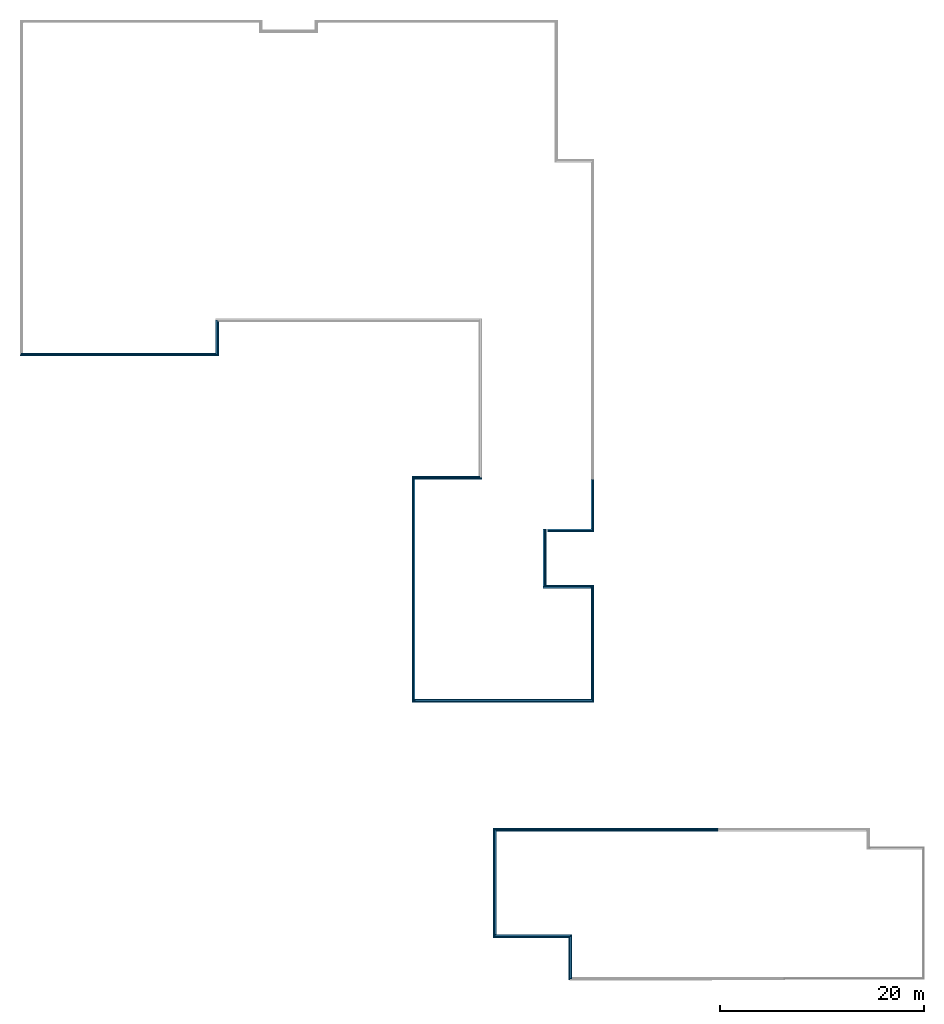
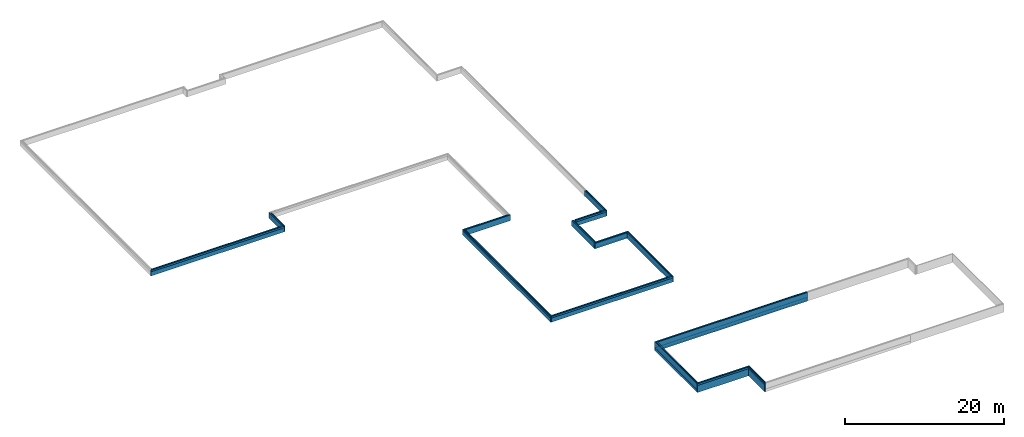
# One storey, part 1 of 3: 41 building element parts, 14 elements without a shape of their own.
"""IFC2X3 building model written with IfcOpenShell, lengths in millimetres."""

from ifc_helpers import new_model, entity, si_unit, converted_unit, derived_unit, money_unit, direction, frame, origin_with_axes, place, context, subcontext, project, spatial, faceted_brep, material, type_object, element, aggregate, save


model = new_model("IFC2X3")

# Units and contexts
model_context = context("Model", 3, precision=0.01, world=origin_with_axes(), true_north=direction((0.0, 1.0)))
plan_context = context("Plan", 3, precision=0.01, world=origin_with_axes(), true_north=direction((0.0, 1.0)))
body_context = subcontext(model_context, "Body", "Model", "MODEL_VIEW")
ifc_project = project(units=[si_unit("LENGTHUNIT", "METRE", prefix="MILLI"), si_unit("AREAUNIT", "SQUARE_METRE"), si_unit("VOLUMEUNIT", "CUBIC_METRE"), converted_unit("PLANEANGLEUNIT", "DEGREE", entity("IfcPlaneAngleMeasure", 0.0174532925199), si_unit("PLANEANGLEUNIT", "RADIAN"), dimensions=[0, 0, 0, 0, 0, 0, 0]), money_unit("EUR"), converted_unit("TIMEUNIT", "Year", entity("IfcTimeMeasure", 31556926.0), si_unit("TIMEUNIT", "SECOND"), dimensions=[0, 0, 1, 0, 0, 0, 0]), si_unit("MASSUNIT", "GRAM", prefix="KILO"), si_unit("THERMODYNAMICTEMPERATUREUNIT", "DEGREE_CELSIUS"), si_unit("LUMINOUSINTENSITYUNIT", "LUMEN"), si_unit("ENERGYUNIT", "JOULE", prefix="MEGA"), derived_unit("THERMALCONDUCTANCEUNIT", [(si_unit("POWERUNIT", "WATT"), 1), (si_unit("LENGTHUNIT", "METRE"), -1), (si_unit("THERMODYNAMICTEMPERATUREUNIT", "KELVIN"), -1)]), derived_unit("SPECIFICHEATCAPACITYUNIT", [(si_unit("ENERGYUNIT", "JOULE"), 1), (si_unit("MASSUNIT", "GRAM", prefix="KILO"), -1), (si_unit("THERMODYNAMICTEMPERATUREUNIT", "KELVIN"), -1)]), derived_unit("MASSDENSITYUNIT", [(si_unit("MASSUNIT", "GRAM", prefix="KILO"), 1), (si_unit("VOLUMEUNIT", "CUBIC_METRE"), -1)])], contexts=[model_context, plan_context])

# Site, building, storey
site_placement = place(None, origin_with_axes())
site = spatial("IfcSite", under=ifc_project, at=site_placement, Name="Site", CompositionType="ELEMENT")
building_placement = place(site_placement, origin_with_axes())
building = spatial("IfcBuilding", under=site, at=building_placement, Name="Naam gebouw", CompositionType="ELEMENT")
storey_placement = place(building_placement, frame((0.0, 0.0, -1540.0), z_axis=(0.0, 0.0, 1.0), x_axis=(1.0, 0.0, 0.0)))
storey = spatial("IfcBuildingStorey", under=building, at=storey_placement, Name="Fundering", CompositionType="ELEMENT", Elevation=-1540.0)

# Wall, building element parts
wall_type_1 = type_object("IfcWallType", Name="21 buitenwand onder maaiveld & isolatie 286 x 870", PredefinedType="ELEMENTEDWALL")
wall_1_placement = place(storey_placement, frame((58630.0166564, -30730.0242736, 1470.0), z_axis=(0.0, 0.0, 1.0), x_axis=(-1.0, 0.0, 0.0)))
wall_1 = element("IfcWall", 1, at=wall_1_placement, inside=storey, type_object=wall_type_1, Name="Buitenwand ondermaaiveld")
ifc_material_1 = material(Name="Steen - Betonblok vuilwerk")
building_element_part_1_placement = place(wall_1_placement, origin_with_axes())
building_element_part_1 = element("IfcBuildingElementPart", 2, at=building_element_part_1_placement, material=ifc_material_1, Name="Steen - Betonblok vuilwerk", context=body_context, shape_type="Brep", body=[
    faceted_brep([(17425.0000014, 365.000001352, -870.000007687), (17425.0000014, 365.000001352, -250.000003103), (-285.999998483, 365.000001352, -250.000002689), (-285.999998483, 365.000001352, -870.000006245), (17425.0000014, 465.0, -250.000003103), (17425.0000014, 465.0, -870.000007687), (-285.999998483, 465.0, -250.000002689), (-285.999998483, 465.0, -870.000006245)], [[[0, 1, 2, 3]], [[4, 1, 0, 5]], [[1, 4, 6, 2]], [[7, 3, 2, 6]], [[5, 0, 3, 7]], [[4, 5, 7, 6]]]),
])
ifc_material_2 = material(Name="Steen - Baksteen AFW")
building_element_part_2_placement = place(wall_1_placement, origin_with_axes())
building_element_part_2 = element("IfcBuildingElementPart", 3, at=building_element_part_2_placement, material=ifc_material_2, Name="Steen - Baksteen AFW", context=body_context, shape_type="Brep", body=[
    faceted_brep([(17425.0, 365.0, -250.0), (17425.0, 365.0, 0.0), (-285.999998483, 365.0, 0.0), (-285.999998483, 365.0, -250.000002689), (17425.0, 465.0, 0.0), (17425.0, 465.0, -250.0), (-285.999998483, 465.0, 0.0), (-285.999998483, 465.0, -250.000002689)], [[[0, 1, 2, 3]], [[4, 1, 0, 5]], [[1, 4, 6, 2]], [[7, 3, 2, 6]], [[5, 0, 3, 7]], [[4, 5, 7, 6]]]),
])
ifc_material_3 = material(Name="Isolatie - Kunststof hard")
building_element_part_3_placement = place(wall_1_placement, origin_with_axes())
building_element_part_3 = element("IfcBuildingElementPart", 4, at=building_element_part_3_placement, material=ifc_material_3, Name="Isolatie - Kunststof hard", context=body_context, shape_type="Brep", body=[
    faceted_brep([(-140.000006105, 319.0, 0.0), (-140.000006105, 179.0, 0.0), (17239.0, 179.0, 0.0), (17239.0, 319.0, 0.0), (-140.000006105, 179.0, -250.000002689), (-140.000006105, 319.0, -250.000002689), (-140.000006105, 179.0, -870.000006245), (17239.0, 179.0, -870.000007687), (17239.0, 179.0, -250.000003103), (17239.0, 319.0, -250.000003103), (17239.0, 319.0, -870.000007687), (-140.000006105, 319.0, -870.000006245)], [[[0, 1, 2, 3]], [[4, 1, 0, 5]], [[1, 4, 6, 7, 8, 2]], [[3, 2, 8, 9]], [[5, 0, 3, 9, 10, 11]], [[4, 5, 11, 6]], [[6, 11, 10, 7]], [[9, 8, 7, 10]]]),
])
aggregate(wall_1, [building_element_part_1, building_element_part_2, building_element_part_3])

wall_type_2 = type_object("IfcWallType", Name="21 buitenwand onder+boven maaiveld & isolatie 286 x 1330", PredefinedType="ELEMENTEDWALL")
wall_2_placement = place(storey_placement, frame((49336.0166564, -53979.001831, 2370.0), z_axis=(0.0, 0.0, 1.0), x_axis=(0.0, 1.0, 0.0)))
wall_2 = element("IfcWall", 5, at=wall_2_placement, inside=storey, type_object=wall_type_2, Name="Buitenwand ondermaaiveld")
building_element_part_4_placement = place(wall_2_placement, origin_with_axes())
building_element_part_4 = element("IfcBuildingElementPart", 6, at=building_element_part_4_placement, material=ifc_material_1, Name="Steen - Betonblok vuilwerk", context=body_context, shape_type="Brep", body=[
    faceted_brep([(-186.000008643, 286.0, -900.0), (-186.000008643, 186.00000084, -900.0), (10461.0017503, 186.00000084, -899.999999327), (10461.0017503, 286.0, -899.999999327), (-186.000008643, 186.00000084, -1330.0), (-186.000008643, 286.0, -1330.0), (10461.0017503, 186.00000084, -1330.00017253), (10461.0017503, 286.0, -1330.00017253)], [[[0, 1, 2, 3]], [[4, 1, 0, 5]], [[1, 4, 6, 2]], [[3, 2, 6, 7]], [[5, 0, 3, 7]], [[4, 5, 7, 6]]]),
])
building_element_part_5_placement = place(wall_2_placement, origin_with_axes())
building_element_part_5 = element("IfcBuildingElementPart", 7, at=building_element_part_5_placement, material=ifc_material_2, Name="Steen - Baksteen AFW", context=body_context, shape_type="Brep", body=[
    faceted_brep([(-186.0, 286.0, 0.0), (-186.0, 186.0, 0.0), (10461.0017503, 186.0, 0.0), (10461.0017503, 286.0, 0.0), (-186.0, 186.0, -250.0), (-186.0, 286.0, -250.0), (-186.000008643, 186.0, -900.0), (10461.0017503, 186.0, -899.999999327), (10461.0017503, 286.0, -899.999999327), (-186.000008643, 286.0, -900.0)], [[[0, 1, 2, 3]], [[4, 1, 0, 5]], [[1, 4, 6, 7, 2]], [[8, 3, 2, 7]], [[5, 0, 3, 8, 9]], [[4, 5, 9, 6]], [[6, 9, 8, 7]]]),
])
building_element_part_6_placement = place(wall_2_placement, origin_with_axes())
building_element_part_6 = element("IfcBuildingElementPart", 8, at=building_element_part_6_placement, material=ifc_material_3, Name="Isolatie - Kunststof hard", context=body_context, shape_type="Brep", body=[
    faceted_brep([(10315.0017494, 0.0, -900.0), (10315.0017494, 0.0, 0.0), (0.0, 0.0, 0.0), (0.0, 0.0, -250.0), (0.0, 0.0, -900.0), (0.0, 0.0, -1330.0), (10315.0017494, 0.0, -1330.00017253), (10315.0017494, 140.0, 0.0), (10315.0017494, 140.0, -900.0), (0.0, 140.0, 0.0), (0.0, 140.0, -250.0), (0.0, 140.0, -900.0), (0.0, 140.0, -1330.0), (10315.0017494, 140.0, -1330.00017253)], [[[0, 1, 2, 3, 4, 5, 6]], [[7, 1, 0, 8]], [[1, 7, 9, 2]], [[3, 2, 9, 10]], [[3, 10, 11, 4]], [[4, 11, 12, 5]], [[13, 6, 5, 12]], [[8, 0, 6, 13]], [[7, 8, 13, 12, 11, 10, 9]]]),
])
aggregate(wall_2, [building_element_part_4, building_element_part_5, building_element_part_6])

wall_3_placement = place(storey_placement, frame((49336.0166564, -43804.0000761, 2370.0), z_axis=(0.0, 0.0, 1.0), x_axis=(1.0, 0.0, 0.0)))
wall_3 = element("IfcWall", 9, at=wall_3_placement, inside=storey, type_object=wall_type_2, Name="Buitenwand ondermaaiveld")
building_element_part_7_placement = place(wall_3_placement, origin_with_axes())
building_element_part_7 = element("IfcBuildingElementPart", 10, at=building_element_part_7_placement, material=ifc_material_2, Name="Steen - Baksteen AFW", context=body_context, shape_type="Brep", body=[
    faceted_brep([(21769.9807251, 286.0, -900.0), (-186.0, 286.0, -900.0), (-186.0, 286.0, 0.0), (21769.9807251, 286.0, 0.0), (21769.9807251, 186.0, -900.0), (-186.0, 186.0, -900.0), (-186.0, 186.0, 0.0), (21769.9807251, 186.0, 0.0)], [[[0, 1, 2, 3]], [[4, 5, 1, 0]], [[5, 6, 2, 1]], [[3, 2, 6, 7]], [[3, 7, 4, 0]], [[7, 6, 5, 4]]]),
])
building_element_part_8_placement = place(wall_3_placement, origin_with_axes())
building_element_part_8 = element("IfcBuildingElementPart", 11, at=building_element_part_8_placement, material=ifc_material_1, Name="Steen - Betonblok vuilwerk", context=body_context, shape_type="Brep", body=[
    faceted_brep([(-186.00000084, 286.0, -1330.00010377), (-186.00000084, 286.0, -899.999992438), (21769.9807251, 286.0, -899.999999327), (21769.9807251, 286.0, -1330.00017253), (-186.00000084, 185.999995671, -899.999992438), (-186.00000084, 185.999995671, -1330.00010377), (21769.9807251, 185.999995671, -899.999999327), (21769.9807251, 185.999995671, -1330.00017253)], [[[0, 1, 2, 3]], [[4, 1, 0, 5]], [[1, 4, 6, 2]], [[3, 2, 6, 7]], [[5, 0, 3, 7]], [[4, 5, 7, 6]]]),
])
building_element_part_9_placement = place(wall_3_placement, origin_with_axes())
building_element_part_9 = element("IfcBuildingElementPart", 12, at=building_element_part_9_placement, material=ifc_material_3, Name="Isolatie - Kunststof hard", context=body_context, shape_type="Brep", body=[
    faceted_brep([(0.0, 140.0, -1330.00010377), (0.0, 140.0, 0.0), (21769.9807251, 140.0, 0.0), (21769.9807251, 140.0, -1330.00017253), (0.0, 0.0, -1330.00010377), (0.0, 0.0, 0.0), (21769.9807251, 0.0, 0.0), (21769.9807251, 0.0, -1330.00017253)], [[[0, 1, 2, 3]], [[4, 5, 1, 0]], [[2, 1, 5, 6]], [[2, 6, 7, 3]], [[7, 4, 0, 3]], [[6, 5, 4, 7]]]),
])
aggregate(wall_3, [building_element_part_7, building_element_part_8, building_element_part_9])

wall_type_3 = type_object("IfcWallType", Name="21 buitenwand onder maaiveld & isolatie 286 x 1330", PredefinedType="ELEMENTEDWALL")
wall_4_placement = place(storey_placement, frame((56736.0166564, -58104.0000761, 2370.0), z_axis=(0.0, 0.0, 1.0), x_axis=(0.0, 1.0, 0.0)))
wall_4 = element("IfcWall", 13, at=wall_4_placement, inside=storey, type_object=wall_type_3, Name="Buitenwand ondermaaiveld")
building_element_part_10_placement = place(wall_4_placement, origin_with_axes())
building_element_part_10 = element("IfcBuildingElementPart", 14, at=building_element_part_10_placement, material=ifc_material_1, Name="Steen - Betonblok vuilwerk", context=body_context, shape_type="Brep", body=[
    faceted_brep([(3838.9982451, 186.000008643, -1330.0), (3838.9982451, 186.000008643, -249.999998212), (-285.999995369, 186.000008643, -249.999998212), (-285.999995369, 186.000008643, -899.999999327), (-285.999995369, 186.000008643, -1330.00017253), (3838.9982451, 286.0, -249.999998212), (3838.9982451, 286.0, -1330.0), (-285.999995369, 286.0, -249.999998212), (-285.999995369, 286.0, -899.999999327), (-285.999995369, 286.0, -1330.00017253)], [[[0, 1, 2, 3, 4]], [[5, 1, 0, 6]], [[1, 5, 7, 2]], [[8, 3, 2, 7]], [[9, 4, 3, 8]], [[6, 0, 4, 9]], [[5, 6, 9, 8, 7]]]),
])
building_element_part_11_placement = place(wall_4_placement, origin_with_axes())
building_element_part_11 = element("IfcBuildingElementPart", 15, at=building_element_part_11_placement, material=ifc_material_2, Name="Steen - Baksteen AFW", context=body_context, shape_type="Brep", body=[
    faceted_brep([(3838.9982451, 186.0, -250.0), (3838.9982451, 186.0, 0.0), (-285.999995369, 186.0, 0.0), (-285.999995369, 186.0, -250.0), (3838.9982451, 286.0, 0.0), (3838.9982451, 286.0, -250.0), (-285.999995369, 286.0, 0.0), (-285.999995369, 286.0, -250.0)], [[[0, 1, 2, 3]], [[4, 1, 0, 5]], [[1, 4, 6, 2]], [[7, 3, 2, 6]], [[5, 0, 3, 7]], [[4, 5, 7, 6]]]),
])
building_element_part_12_placement = place(wall_4_placement, origin_with_axes())
building_element_part_12 = element("IfcBuildingElementPart", 16, at=building_element_part_12_placement, material=ifc_material_3, Name="Isolatie - Kunststof hard", context=body_context, shape_type="Brep", body=[
    faceted_brep([(-139.999994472, 140.0, 0.0), (-139.999994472, 0.0, 0.0), (3984.9982451, 0.0, 0.0), (3984.9982451, 140.0, 0.0), (-139.999994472, 0.0, -250.0), (-139.999994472, 140.0, -250.0), (-139.999994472, 0.0, -900.0), (-139.999994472, 0.0, -1330.00017253), (3984.9982451, 0.0, -1330.0), (3984.9982451, 0.0, -250.0), (3984.9982451, 140.0, -250.0), (3984.9982451, 140.0, -1330.0), (-139.999994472, 140.0, -1330.00017253), (-139.999994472, 140.0, -900.0)], [[[0, 1, 2, 3]], [[4, 1, 0, 5]], [[1, 4, 6, 7, 8, 9, 2]], [[3, 2, 9, 10]], [[5, 0, 3, 10, 11, 12, 13]], [[4, 5, 13, 6]], [[6, 13, 12, 7]], [[7, 12, 11, 8]], [[10, 9, 8, 11]]]),
])
aggregate(wall_4, [building_element_part_10, building_element_part_11, building_element_part_12])

wall_5_placement = place(storey_placement, frame((56736.0166564, -53979.001831, 2370.0), z_axis=(0.0, 0.0, 1.0), x_axis=(-1.0, 0.0, 0.0)))
wall_5 = element("IfcWall", 17, at=wall_5_placement, inside=storey, type_object=wall_type_3, Name="Buitenwand ondermaaiveld")
building_element_part_13_placement = place(wall_5_placement, origin_with_axes())
building_element_part_13 = element("IfcBuildingElementPart", 18, at=building_element_part_13_placement, material=ifc_material_1, Name="Steen - Betonblok vuilwerk", context=body_context, shape_type="Brep", body=[
    faceted_brep([(186.000008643, 286.0, -250.0), (186.000008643, 186.000008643, -250.0), (7686.00000557, 186.000008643, -249.999998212), (7686.00000557, 286.0, -249.999998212), (186.000008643, 186.000008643, -1330.0), (186.000008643, 286.0, -1330.0), (7686.00000557, 186.000008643, -1330.00010377), (7686.00000557, 186.000008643, -899.999992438), (7686.00000557, 286.0, -899.999992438), (7686.00000557, 286.0, -1330.00010377)], [[[0, 1, 2, 3]], [[4, 1, 0, 5]], [[1, 4, 6, 7, 2]], [[8, 3, 2, 7]], [[5, 0, 3, 8, 9]], [[4, 5, 9, 6]], [[8, 7, 6, 9]]]),
])
building_element_part_14_placement = place(wall_5_placement, origin_with_axes())
building_element_part_14 = element("IfcBuildingElementPart", 19, at=building_element_part_14_placement, material=ifc_material_2, Name="Steen - Baksteen AFW", context=body_context, shape_type="Brep", body=[
    faceted_brep([(186.000008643, 286.0, 0.0), (186.000008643, 186.0, 0.0), (7686.00000557, 186.0, 0.0), (7686.00000557, 286.0, 0.0), (186.000008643, 186.0, -250.0), (186.000008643, 286.0, -250.0), (7686.00000557, 186.0, -250.0), (7686.00000557, 286.0, -250.0)], [[[0, 1, 2, 3]], [[4, 1, 0, 5]], [[1, 4, 6, 2]], [[7, 3, 2, 6]], [[5, 0, 3, 7]], [[4, 5, 7, 6]]]),
])
building_element_part_15_placement = place(wall_5_placement, origin_with_axes())
building_element_part_15 = element("IfcBuildingElementPart", 20, at=building_element_part_15_placement, material=ifc_material_3, Name="Isolatie - Kunststof hard", context=body_context, shape_type="Brep", body=[
    faceted_brep([(7540.00000202, 0.0, -250.0), (7540.00000202, 0.0, 0.0), (8.64267946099e-06, 0.0, 0.0), (8.64267946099e-06, 0.0, -1330.0), (7540.00000202, 0.0, -1330.00010377), (7540.00000202, 0.0, -900.0), (7540.00000202, 140.0, 0.0), (7540.00000202, 140.0, -250.0), (8.64267946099e-06, 140.0, 0.0), (8.64267946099e-06, 140.0, -1330.0), (7540.00000202, 140.0, -1330.00010377), (7540.00000202, 140.0, -900.0)], [[[0, 1, 2, 3, 4, 5]], [[6, 1, 0, 7]], [[1, 6, 8, 2]], [[9, 3, 2, 8]], [[10, 4, 3, 9]], [[11, 5, 4, 10]], [[7, 0, 5, 11]], [[6, 7, 11, 10, 9, 8]]]),
])
aggregate(wall_5, [building_element_part_13, building_element_part_14, building_element_part_15])

wall_6_placement = place(storey_placement, frame((58630.0166564, -30730.0242736, 1470.0), z_axis=(0.0, 0.0, 1.0), x_axis=(0.0, 1.0, 0.0)))
wall_6 = element("IfcWall", 21, at=wall_6_placement, inside=storey, type_object=wall_type_1, Name="Buitenwand ondermaaiveld")
building_element_part_16_placement = place(wall_6_placement, origin_with_axes())
building_element_part_16 = element("IfcBuildingElementPart", 22, at=building_element_part_16_placement, material=ifc_material_3, Name="Isolatie - Kunststof hard", context=body_context, shape_type="Brep", body=[
    faceted_brep([(10840.0113996, -140.0, -250.000002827), (10840.0113996, -140.0, 0.0), (-179.0, -140.0, 0.0), (-179.0, -140.0, -250.000003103), (-179.0, -140.0, -870.000007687), (10840.0113996, -140.0, -870.000006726), (10840.0113996, 0.0, 0.0), (10840.0113996, 0.0, -250.000002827), (-179.0, 0.0, 0.0), (-179.0, 0.0, -250.000003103), (-179.0, 0.0, -870.000007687), (10840.0113996, 0.0, -870.000006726)], [[[0, 1, 2, 3, 4, 5]], [[6, 1, 0, 7]], [[1, 6, 8, 2]], [[3, 2, 8, 9]], [[3, 9, 10, 4]], [[11, 5, 4, 10]], [[7, 0, 5, 11]], [[6, 7, 11, 10, 9, 8]]]),
])
building_element_part_17_placement = place(wall_6_placement, origin_with_axes())
building_element_part_17 = element("IfcBuildingElementPart", 23, at=building_element_part_17_placement, material=ifc_material_2, Name="Steen - Baksteen AFW", context=body_context, shape_type="Brep", body=[
    faceted_brep([(-365.0, -186.0, 0.0), (-365.0, -286.0, 0.0), (10986.0113922, -286.0, 0.0), (10986.0113922, -186.0, 0.0), (-365.0, -286.0, -250.0), (-365.0, -186.0, -250.0), (10986.0113922, -286.0, -250.000002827), (10986.0113922, -186.0, -250.000002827)], [[[0, 1, 2, 3]], [[4, 1, 0, 5]], [[1, 4, 6, 2]], [[7, 3, 2, 6]], [[5, 0, 3, 7]], [[4, 5, 7, 6]]]),
])
building_element_part_18_placement = place(wall_6_placement, origin_with_axes())
building_element_part_18 = element("IfcBuildingElementPart", 24, at=building_element_part_18_placement, material=ifc_material_1, Name="Steen - Betonblok vuilwerk", context=body_context, shape_type="Brep", body=[
    faceted_brep([(-365.000001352, -186.000001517, -250.000003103), (-365.000001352, -286.0, -250.000003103), (10986.0113922, -286.0, -250.000002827), (10986.0113922, -186.000001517, -250.000002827), (-365.000001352, -286.0, -870.000007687), (-365.000001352, -186.000001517, -870.000007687), (10986.0113922, -286.0, -870.000006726), (10986.0113922, -186.000001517, -870.000006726)], [[[0, 1, 2, 3]], [[4, 1, 0, 5]], [[1, 4, 6, 2]], [[3, 2, 6, 7]], [[5, 0, 3, 7]], [[4, 5, 7, 6]]]),
])
aggregate(wall_6, [building_element_part_16, building_element_part_17, building_element_part_18])

wall_7_placement = place(storey_placement, frame((58630.0166564, -20130.01288, 1470.0), z_axis=(0.0, 0.0, 1.0), x_axis=(-1.0, 0.0, 0.0)))
wall_7 = element("IfcWall", 25, at=wall_7_placement, inside=storey, type_object=wall_type_1, Name="Buitenwand ondermaaiveld")
building_element_part_19_placement = place(wall_7_placement, origin_with_axes())
building_element_part_19 = element("IfcBuildingElementPart", 26, at=building_element_part_19_placement, material=ifc_material_3, Name="Isolatie - Kunststof hard", context=body_context, shape_type="Brep", body=[
    faceted_brep([(0.0, -100.0, 0.0), (0.0, -240.0, 0.0), (4681.00000646, -240.0, 0.0), (4681.00000646, -100.0, 0.0), (0.0, -240.0, -250.000002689), (0.0, -100.0, -250.000002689), (0.0, -240.0, -870.000006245), (4681.00000646, -240.0, -870.000007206), (4681.00000646, -100.0, -870.000007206), (0.0, -100.0, -870.000006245)], [[[0, 1, 2, 3]], [[4, 1, 0, 5]], [[1, 4, 6, 7, 2]], [[8, 3, 2, 7]], [[5, 0, 3, 8, 9]], [[4, 5, 9, 6]], [[6, 9, 8, 7]]]),
])
building_element_part_20_placement = place(wall_7_placement, origin_with_axes())
building_element_part_20 = element("IfcBuildingElementPart", 27, at=building_element_part_20_placement, material=ifc_material_2, Name="Steen - Baksteen AFW", context=body_context, shape_type="Brep", body=[
    faceted_brep([(4494.99999859, -386.0, -250.000002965), (4494.99999859, -386.0, 0.0), (-186.0, -386.0, 0.0), (-186.0, -386.0, -250.0), (4494.99999859, -286.0, 0.0), (4494.99999859, -286.0, -250.000002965), (-186.0, -286.0, 0.0), (-186.0, -286.0, -250.0)], [[[0, 1, 2, 3]], [[4, 1, 0, 5]], [[1, 4, 6, 2]], [[3, 2, 6, 7]], [[5, 0, 3, 7]], [[4, 5, 7, 6]]]),
])
building_element_part_21_placement = place(wall_7_placement, origin_with_axes())
building_element_part_21 = element("IfcBuildingElementPart", 28, at=building_element_part_21_placement, material=ifc_material_1, Name="Steen - Betonblok vuilwerk", context=body_context, shape_type="Brep", body=[
    faceted_brep([(4494.99999859, -386.0, -870.000007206), (4494.99999859, -386.0, -250.000002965), (-186.000001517, -386.0, -250.000002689), (-186.000001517, -386.0, -870.000006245), (4494.99999859, -286.000001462, -250.000002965), (4494.99999859, -286.000001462, -870.000007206), (-186.000001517, -286.000001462, -250.000002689), (-186.000001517, -286.000001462, -870.000006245)], [[[0, 1, 2, 3]], [[4, 1, 0, 5]], [[1, 4, 6, 2]], [[3, 2, 6, 7]], [[5, 0, 3, 7]], [[4, 5, 7, 6]]]),
])
aggregate(wall_7, [building_element_part_19, building_element_part_20, building_element_part_21])

wall_8_placement = place(storey_placement, frame((41570.0166564, -30730.0242736, 1470.0), z_axis=(0.0, 0.0, 1.0), x_axis=(0.0, 1.0, 0.0)))
wall_8 = element("IfcWall", 29, at=wall_8_placement, inside=storey, type_object=wall_type_1, Name="Buitenwand ondermaaiveld")
building_element_part_22_placement = place(wall_8_placement, origin_with_axes())
building_element_part_22 = element("IfcBuildingElementPart", 30, at=building_element_part_22_placement, material=ifc_material_1, Name="Steen - Betonblok vuilwerk", context=body_context, shape_type="Brep", body=[
    faceted_brep([(-465.000006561, 465.0, -250.000003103), (-465.000006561, 365.000001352, -250.000003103), (21665.0207003, 365.000001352, -250.000003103), (21665.0207003, 465.0, -250.000003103), (-465.000006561, 365.000001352, -870.000007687), (-465.000006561, 465.0, -870.000007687), (21665.0207003, 365.000001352, -870.000007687), (21665.0207003, 465.0, -870.000007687)], [[[0, 1, 2, 3]], [[4, 1, 0, 5]], [[1, 4, 6, 2]], [[2, 6, 7, 3]], [[5, 0, 3, 7]], [[4, 5, 7, 6]]]),
])
building_element_part_23_placement = place(wall_8_placement, origin_with_axes())
building_element_part_23 = element("IfcBuildingElementPart", 31, at=building_element_part_23_placement, material=ifc_material_2, Name="Steen - Baksteen AFW", context=body_context, shape_type="Brep", body=[
    faceted_brep([(-465.000006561, 465.0, 0.0), (-465.000006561, 365.0, 0.0), (21665.0207003, 365.0, 0.0), (21665.0207003, 465.0, 0.0), (-465.000006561, 365.0, -250.000003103), (-465.000006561, 465.0, -250.000003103), (21665.0207003, 365.0, -250.000003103), (21665.0207003, 465.0, -250.000003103)], [[[0, 1, 2, 3]], [[4, 1, 0, 5]], [[1, 4, 6, 2]], [[3, 2, 6, 7]], [[5, 0, 3, 7]], [[4, 5, 7, 6]]]),
])
building_element_part_24_placement = place(wall_8_placement, origin_with_axes())
building_element_part_24 = element("IfcBuildingElementPart", 32, at=building_element_part_24_placement, material=ifc_material_3, Name="Isolatie - Kunststof hard", context=body_context, shape_type="Brep", body=[
    faceted_brep([(-319.000005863, 319.0, 0.0), (-319.000005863, 179.0, 0.0), (21519.0207075, 179.0, 0.0), (21519.0207075, 319.0, 0.0), (-319.000005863, 179.0, -250.000003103), (-319.000005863, 319.0, -250.000003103), (-319.000005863, 179.0, -870.000007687), (21519.0207075, 179.0, -870.000007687), (21519.0207075, 179.0, -250.000003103), (21519.0207075, 319.0, -250.000003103), (21519.0207075, 319.0, -870.000007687), (-319.000005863, 319.0, -870.000007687)], [[[0, 1, 2, 3]], [[4, 1, 0, 5]], [[1, 4, 6, 7, 8, 2]], [[3, 2, 8, 9]], [[5, 0, 3, 9, 10, 11]], [[4, 5, 11, 6]], [[6, 11, 10, 7]], [[9, 8, 7, 10]]]),
])
aggregate(wall_8, [building_element_part_22, building_element_part_23, building_element_part_24])

wall_9_placement = place(storey_placement, frame((47920.0380848, -9530.00357196, 1470.0), z_axis=(0.0, 0.0, 1.0), x_axis=(-1.0, 0.0, 0.0)))
wall_9 = element("IfcWall", 33, at=wall_9_placement, inside=storey, type_object=wall_type_1, Name="Buitenwand ondermaaiveld")
building_element_part_25_placement = place(wall_9_placement, origin_with_axes())
building_element_part_25 = element("IfcBuildingElementPart", 34, at=building_element_part_25_placement, material=ifc_material_3, Name="Isolatie - Kunststof hard", context=body_context, shape_type="Brep", body=[
    faceted_brep([(6529.02142836, -319.0, -250.000003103), (6529.02142836, -319.0, 0.0), (1.51732137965e-06, -319.0, 0.0), (1.51732137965e-06, -319.0, -870.000006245), (6529.02142836, -319.0, -870.000007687), (6529.02142836, -179.0, 0.0), (6529.02142836, -179.0, -250.000003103), (1.51732137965e-06, -179.0, 0.0), (1.51732137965e-06, -179.0, -870.000006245), (6529.02142836, -179.0, -870.000007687)], [[[0, 1, 2, 3, 4]], [[5, 1, 0, 6]], [[1, 5, 7, 2]], [[8, 3, 2, 7]], [[9, 4, 3, 8]], [[6, 0, 4, 9]], [[5, 6, 9, 8, 7]]]),
])
building_element_part_26_placement = place(wall_9_placement, origin_with_axes())
building_element_part_26 = element("IfcBuildingElementPart", 35, at=building_element_part_26_placement, material=ifc_material_2, Name="Steen - Baksteen AFW", context=body_context, shape_type="Brep", body=[
    faceted_brep([(186.000001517, -365.0, 0.0), (186.000001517, -465.0, 0.0), (6715.02142836, -465.0, 0.0), (6715.02142836, -365.0, 0.0), (186.000001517, -465.0, -250.000002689), (186.000001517, -365.0, -250.000002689), (6715.02142836, -465.0, -250.0), (6715.02142836, -365.0, -250.0)], [[[0, 1, 2, 3]], [[4, 1, 0, 5]], [[1, 4, 6, 2]], [[3, 2, 6, 7]], [[5, 0, 3, 7]], [[4, 5, 7, 6]]]),
])
aggregate(wall_9, [building_element_part_25, building_element_part_26])

wall_10_placement = place(storey_placement, frame((53770.0166564, -20130.01288, 1470.0), z_axis=(0.0, 0.0, 1.0), x_axis=(0.0, 1.0, 0.0)))
wall_10 = element("IfcWall", 36, at=wall_10_placement, inside=storey, type_object=wall_type_1, Name="Buitenwand ondermaaiveld")
building_element_part_27_placement = place(wall_10_placement, origin_with_axes())
building_element_part_27 = element("IfcBuildingElementPart", 37, at=building_element_part_27_placement, material=ifc_material_3, Name="Isolatie - Kunststof hard", context=body_context, shape_type="Brep", body=[
    faceted_brep([(240.0, -179.0, 0.0), (240.0, -319.0, 0.0), (5900.00930804, -319.0, 0.0), (5900.00930804, -179.0, 0.0), (240.0, -319.0, -250.000002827), (240.0, -179.0, -250.000002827), (240.0, -319.0, -870.000006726), (5900.00930804, -319.0, -870.000007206), (5900.00930804, -179.0, -870.000007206), (240.0, -179.0, -870.000006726)], [[[0, 1, 2, 3]], [[4, 1, 0, 5]], [[1, 4, 6, 7, 2]], [[8, 3, 2, 7]], [[5, 0, 3, 8, 9]], [[4, 5, 9, 6]], [[6, 9, 8, 7]]]),
])
building_element_part_28_placement = place(wall_10_placement, origin_with_axes())
building_element_part_28 = element("IfcBuildingElementPart", 38, at=building_element_part_28_placement, material=ifc_material_2, Name="Steen - Baksteen AFW", context=body_context, shape_type="Brep", body=[
    faceted_brep([(386.0, -365.0, 0.0), (386.0, -465.0, 0.0), (5900.00930804, -465.0, 0.0), (5900.00930804, -365.0, 0.0), (386.0, -465.0, -250.0), (386.0, -365.0, -250.0), (5900.00930804, -465.0, -250.0), (5900.00930804, -365.0, -250.0)], [[[0, 1, 2, 3]], [[4, 1, 0, 5]], [[1, 4, 6, 2]], [[7, 3, 2, 6]], [[5, 0, 3, 7]], [[4, 5, 7, 6]]]),
])
building_element_part_29_placement = place(wall_10_placement, origin_with_axes())
building_element_part_29 = element("IfcBuildingElementPart", 39, at=building_element_part_29_placement, material=ifc_material_1, Name="Steen - Betonblok vuilwerk", context=body_context, shape_type="Brep", body=[
    faceted_brep([(386.0, -365.000001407, -250.000002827), (386.0, -465.0, -250.000002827), (5900.00930804, -465.0, -250.000002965), (5900.00930804, -365.000001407, -250.000002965), (386.0, -465.0, -870.000006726), (386.0, -365.000001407, -870.000006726), (5900.00930804, -465.0, -870.000007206), (5900.00930804, -365.000001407, -870.000007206)], [[[0, 1, 2, 3]], [[4, 1, 0, 5]], [[1, 4, 6, 2]], [[2, 6, 7, 3]], [[5, 0, 3, 7]], [[4, 5, 7, 6]]]),
])
aggregate(wall_10, [building_element_part_27, building_element_part_28, building_element_part_29])

wall_11_placement = place(storey_placement, frame((21870.0, 6369.99642804, 1470.0), z_axis=(0.0, 0.0, 1.0), x_axis=(0.0, -1.0, 0.0)))
wall_11 = element("IfcWall", 40, at=wall_11_placement, inside=storey, type_object=wall_type_1, Name="Buitenwand ondermaaiveld")
building_element_part_30_placement = place(wall_11_placement, origin_with_axes())
building_element_part_30 = element("IfcBuildingElementPart", 41, at=building_element_part_30_placement, material=ifc_material_1, Name="Steen - Betonblok vuilwerk", context=body_context, shape_type="Brep", body=[
    faceted_brep([(286.0, 286.0, -870.000006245), (286.0, 286.0, -250.000002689), (3655.99643389, 286.0, -250.000002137), (3655.99643389, 286.0, -870.000004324), (286.0, 186.000001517, -250.000002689), (286.0, 186.000001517, -870.000006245), (3655.99643389, 186.000001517, -250.000002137), (3655.99643389, 186.000001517, -870.000004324)], [[[0, 1, 2, 3]], [[4, 1, 0, 5]], [[1, 4, 6, 2]], [[7, 3, 2, 6]], [[5, 0, 3, 7]], [[4, 5, 7, 6]]]),
])
building_element_part_31_placement = place(wall_11_placement, origin_with_axes())
building_element_part_31 = element("IfcBuildingElementPart", 42, at=building_element_part_31_placement, material=ifc_material_2, Name="Steen - Baksteen AFW", context=body_context, shape_type="Brep", body=[
    faceted_brep([(286.0, 286.0, -250.0), (286.0, 286.0, 0.0), (3655.99643389, 286.0, 0.0), (3655.99643389, 286.0, -250.000002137), (286.0, 186.0, 0.0), (286.0, 186.0, -250.0), (3655.99643389, 186.0, 0.0), (3655.99643389, 186.0, -250.000002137)], [[[0, 1, 2, 3]], [[4, 1, 0, 5]], [[1, 4, 6, 2]], [[7, 3, 2, 6]], [[5, 0, 3, 7]], [[4, 5, 7, 6]]]),
])
building_element_part_32_placement = place(wall_11_placement, origin_with_axes())
building_element_part_32 = element("IfcBuildingElementPart", 43, at=building_element_part_32_placement, material=ifc_material_3, Name="Isolatie - Kunststof hard", context=body_context, shape_type="Brep", body=[
    faceted_brep([(3509.99643447, 0.0, 0.0), (3509.99643447, 140.0, 0.0), (140.0, 140.0, 0.0), (140.0, 0.0, 0.0), (3509.99643447, 140.0, -250.000002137), (3509.99643447, 0.0, -250.000002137), (3509.99643447, 140.0, -870.000004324), (140.0, 140.0, -870.000006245), (140.0, 140.0, -250.000002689), (140.0, 0.0, -250.000002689), (140.0, 0.0, -870.000006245), (3509.99643447, 0.0, -870.000004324)], [[[0, 1, 2, 3]], [[4, 1, 0, 5]], [[1, 4, 6, 7, 8, 2]], [[3, 2, 8, 9]], [[5, 0, 3, 9, 10, 11]], [[4, 5, 11, 6]], [[6, 11, 10, 7]], [[9, 8, 7, 10]]]),
])
aggregate(wall_11, [building_element_part_30, building_element_part_31, building_element_part_32])

wall_12_placement = place(storey_placement, frame((21870.0, 3000.0, 1470.0), z_axis=(0.0, 0.0, 1.0), x_axis=(-1.0, 0.0, 0.0)))
wall_12 = element("IfcWall", 44, at=wall_12_placement, inside=storey, type_object=wall_type_1, Name="Buitenwand ondermaaiveld")
building_element_part_33_placement = place(wall_12_placement, origin_with_axes())
building_element_part_33 = element("IfcBuildingElementPart", 45, at=building_element_part_33_placement, material=ifc_material_1, Name="Steen - Betonblok vuilwerk", context=body_context, shape_type="Brep", body=[
    faceted_brep([(-186.000001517, 286.0, -250.000002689), (-186.000001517, 186.000001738, -250.000002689), (19156.0000056, 186.000001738, -250.00000186), (19156.0000056, 286.0, -250.00000186), (-186.000001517, 186.000001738, -870.000006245), (-186.000001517, 286.0, -870.000006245), (19156.0000056, 186.000001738, -870.000003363), (19156.0000056, 286.0, -870.000003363)], [[[0, 1, 2, 3]], [[4, 1, 0, 5]], [[1, 4, 6, 2]], [[3, 2, 6, 7]], [[5, 0, 3, 7]], [[4, 5, 7, 6]]]),
])
building_element_part_34_placement = place(wall_12_placement, origin_with_axes())
building_element_part_34 = element("IfcBuildingElementPart", 46, at=building_element_part_34_placement, material=ifc_material_2, Name="Steen - Baksteen AFW", context=body_context, shape_type="Brep", body=[
    faceted_brep([(-186.0, 286.0, 0.0), (-186.0, 186.0, 0.0), (19156.0000056, 186.0, 0.0), (19156.0000056, 286.0, 0.0), (-186.0, 186.0, -250.0), (-186.0, 286.0, -250.0), (19156.0000056, 186.0, -250.00000186), (19156.0000056, 286.0, -250.00000186)], [[[0, 1, 2, 3]], [[4, 1, 0, 5]], [[1, 4, 6, 2]], [[7, 3, 2, 6]], [[5, 0, 3, 7]], [[4, 5, 7, 6]]]),
])
building_element_part_35_placement = place(wall_12_placement, origin_with_axes())
building_element_part_35 = element("IfcBuildingElementPart", 47, at=building_element_part_35_placement, material=ifc_material_3, Name="Isolatie - Kunststof hard", context=body_context, shape_type="Brep", body=[
    faceted_brep([(19009.9999936, 0.0, -250.00000186), (19009.9999936, 0.0, 0.0), (0.0, 0.0, 0.0), (0.0, 0.0, -250.000002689), (0.0, 0.0, -870.000006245), (19009.9999936, 0.0, -870.000003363), (19009.9999936, 140.0, 0.0), (19009.9999936, 140.0, -250.00000186), (0.0, 140.0, 0.0), (0.0, 140.0, -250.000002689), (0.0, 140.0, -870.000006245), (19009.9999936, 140.0, -870.000003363)], [[[0, 1, 2, 3, 4, 5]], [[6, 1, 0, 7]], [[1, 6, 8, 2]], [[3, 2, 8, 9]], [[3, 9, 10, 4]], [[11, 5, 4, 10]], [[7, 0, 5, 11]], [[6, 7, 11, 10, 9, 8]]]),
])
aggregate(wall_12, [building_element_part_33, building_element_part_34, building_element_part_35])

wall_13_placement = place(storey_placement, frame((54375.0721478, -14230.01288, 1470.0), z_axis=(0.0, 0.0, 1.0), x_axis=(1.0, 0.0, 0.0)))
wall_13 = element("IfcWall", 48, at=wall_13_placement, inside=storey, type_object=wall_type_1, Name="Buitenwand ondermaaiveld")
building_element_part_36_placement = place(wall_13_placement, origin_with_axes())
building_element_part_36 = element("IfcBuildingElementPart", 49, at=building_element_part_36_placement, material=ifc_material_3, Name="Isolatie - Kunststof hard", context=body_context, shape_type="Brep", body=[
    faceted_brep([(4394.94450263, -140.0, 0.0), (4394.94450263, 0.0, 0.0), (0.0, 0.0, 0.0), (0.0, -140.0, 0.0), (4394.94450263, 0.0, -250.00000117), (4394.94450263, -140.0, -250.00000117), (4394.94450263, 0.0, -870.000000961), (0.0, 0.0, -870.000000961), (0.0, -140.0, -870.000000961), (4394.94450263, -140.0, -870.000000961)], [[[0, 1, 2, 3]], [[4, 1, 0, 5]], [[1, 4, 6, 7, 2]], [[7, 8, 3, 2]], [[5, 0, 3, 8, 9]], [[4, 5, 9, 6]], [[6, 9, 8, 7]]]),
])
building_element_part_37_placement = place(wall_13_placement, origin_with_axes())
building_element_part_37 = element("IfcBuildingElementPart", 50, at=building_element_part_37_placement, material=ifc_material_2, Name="Steen - Baksteen AFW", context=body_context, shape_type="Brep", body=[
    faceted_brep([(4540.94450648, -286.0, 0.0), (4540.94450648, -186.0, 0.0), (0.0, -186.0, 0.0), (0.0, -286.0, 0.0), (4540.94450648, -186.0, -250.00000117), (4540.94450648, -286.0, -250.00000117), (0.0, -186.0, -250.0), (0.0, -286.0, -250.0)], [[[0, 1, 2, 3]], [[4, 1, 0, 5]], [[1, 4, 6, 2]], [[7, 3, 2, 6]], [[5, 0, 3, 7]], [[4, 5, 7, 6]]]),
])
building_element_part_38_placement = place(wall_13_placement, origin_with_axes())
building_element_part_38 = element("IfcBuildingElementPart", 51, at=building_element_part_38_placement, material=ifc_material_1, Name="Steen - Betonblok vuilwerk", context=body_context, shape_type="Brep", body=[
    faceted_brep([(4540.94450648, -286.0, -250.00000117), (4540.94450648, -186.000002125, -250.00000117), (0.0, -186.000002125, -250.00000117), (0.0, -286.0, -250.00000117), (4540.94450648, -186.000002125, -870.000000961), (4540.94450648, -286.0, -870.000000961), (0.0, -186.000002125, -870.000000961), (0.0, -286.0, -870.000000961)], [[[0, 1, 2, 3]], [[4, 1, 0, 5]], [[1, 4, 6, 2]], [[2, 6, 7, 3]], [[5, 0, 3, 7]], [[4, 5, 7, 6]]]),
])
aggregate(wall_13, [building_element_part_36, building_element_part_37, building_element_part_38])

wall_14_placement = place(storey_placement, frame((58630.0166564, -14230.01288, 1470.0), z_axis=(0.0, 0.0, 1.0), x_axis=(0.0, 1.0, 0.0)))
wall_14 = element("IfcWall", 52, at=wall_14_placement, inside=storey, type_object=wall_type_1, Name="Buitenwand ondermaaiveld")
building_element_part_39_placement = place(wall_14_placement, origin_with_axes())
building_element_part_39 = element("IfcBuildingElementPart", 53, at=building_element_part_39_placement, material=ifc_material_3, Name="Isolatie - Kunststof hard", context=body_context, shape_type="Brep", body=[
    faceted_brep([(0.0, 0.0, 0.0), (0.0, -140.0, 0.0), (4850.00930853, -140.0, 0.0), (4850.00930853, 0.0, 0.0), (0.0, -140.0, -250.00000117), (0.0, 0.0, -250.00000117), (0.0, -140.0, -870.000000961), (4850.00930853, -140.0, -870.000000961), (4850.00930853, 0.0, -870.000000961), (0.0, 0.0, -870.000000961)], [[[0, 1, 2, 3]], [[4, 1, 0, 5]], [[1, 4, 6, 7, 2]], [[8, 3, 2, 7]], [[5, 0, 3, 8, 9]], [[4, 5, 9, 6]], [[6, 9, 8, 7]]]),
])
building_element_part_40_placement = place(wall_14_placement, origin_with_axes())
building_element_part_40 = element("IfcBuildingElementPart", 54, at=building_element_part_40_placement, material=ifc_material_2, Name="Steen - Baksteen AFW", context=body_context, shape_type="Brep", body=[
    faceted_brep([(-186.0, -186.0, 0.0), (-186.0, -286.0, 0.0), (4850.00930853, -286.0, 0.0), (4850.00930853, -186.0, 0.0), (-186.0, -286.0, -250.0), (-186.0, -186.0, -250.0), (4850.00930853, -286.0, -250.0), (4850.00930853, -186.0, -250.0)], [[[0, 1, 2, 3]], [[4, 1, 0, 5]], [[1, 4, 6, 2]], [[7, 3, 2, 6]], [[5, 0, 3, 7]], [[4, 5, 7, 6]]]),
])
building_element_part_41_placement = place(wall_14_placement, origin_with_axes())
building_element_part_41 = element("IfcBuildingElementPart", 55, at=building_element_part_41_placement, material=ifc_material_1, Name="Steen - Betonblok vuilwerk", context=body_context, shape_type="Brep", body=[
    faceted_brep([(-186.000002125, -186.000002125, -250.00000117), (-186.000002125, -286.0, -250.00000117), (4850.00930853, -286.0, -250.00000117), (4850.00930853, -186.000002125, -250.00000117), (-186.000002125, -286.0, -870.000000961), (-186.000002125, -186.000002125, -870.000000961), (4850.00930853, -286.0, -870.000000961), (4850.00930853, -186.000002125, -870.000000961)], [[[0, 1, 2, 3]], [[4, 1, 0, 5]], [[1, 4, 6, 2]], [[2, 6, 7, 3]], [[5, 0, 3, 7]], [[4, 5, 7, 6]]]),
])
aggregate(wall_14, [building_element_part_39, building_element_part_40, building_element_part_41])

save(model, "model.ifc")
